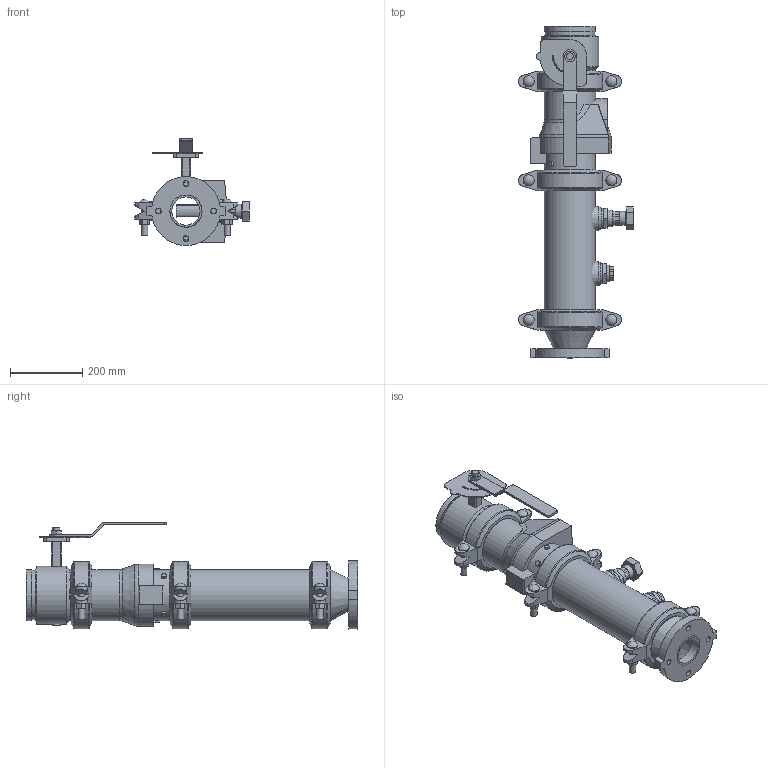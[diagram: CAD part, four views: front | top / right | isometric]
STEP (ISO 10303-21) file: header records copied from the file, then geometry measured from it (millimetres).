
FILE_DESCRIPTION(/* description */ ('VIC DVI PUMP DROP VERT S/380 (OGSxFLG) (S/924-1.25)','CAx-IF Rec.Pracs.---Representation and Presentation of Product Manufacturing Information (PMI)---4.0---2014-10-13'),/* implementation_level */ '2;1');
FILE_NAME(/* name */ 'C:\Users\Public\Documents\Victaulic.Temp\A765\Victaulic_IPS_Vertical DVI_CL 150_Series 380 (OGSxFLG)_924 (1.25)_05.0x03.0 (125x80).stp',/* time_stamp */ '2022-07-25T11:11:29+02:00',/* author */ ('Vjadhav'),/* organization */ ('Victaulic'),/* preprocessor_version */ 'ST-DEVELOPER v18',/* originating_system */ 'Autodesk Inventor 2020',/* authorisation */ '');
FILE_SCHEMA (('AP242_MANAGED_MODEL_BASED_3D_ENGINEERING_MIM_LF { 1 0 10303 442 1 1 4 }'));
Length unit declared in the file: inch
Products named in the file (9): 380_924 (1.25)-05.0x03.0; 741-03.0; 050-05.0x03.0; Pipe-05.0; 177N-05.0; 761-05.0; 779-05.0; 923-04.0x0.75; 924-04.0x01.25
Assembly tree (10 placements, depth 2):
  380_924 (1.25)-05.0x03.0
    741-03.0
    050-05.0x03.0
    177N-05.0  x3
    Pipe-05.0
    761-05.0
    779-05.0
    923-04.0x0.75
    924-04.0x01.25
Bounding box: 317.31 x 917.58 x 295.32 mm (x, y, z)
Volume: 7817545.8 mm3; surface area: 1408641.5 mm2
Topology: 10 solids, 12 shells, 601 faces, 1561 edges, 1045 vertices
Faces by surface type: plane 356, cylinder 199, cone 20, torus 18, sphere 6, bspline 2
Full cylindrical faces by diameter (mm): 4.826 x10, 8.636 x4, 13.716 x4, 15.875 x4, 17.78 x6, 19.05 x2, 21.336 x1, 22.86 x1, 26.67 x2, 30.48 x6, 38.608 x1, 42.164 x1, 45.974 x4, 48.514 x1, 55.118 x1, 55.626 x2, 77.927 x1, 84.938 x1, 88.9 x3, 128.194 x4, 128.6 x3, 137.033 x7, 141.3 x19, 160.02 x1
Entity records: 14316 total; most frequent: CARTESIAN_POINT 2834, DIRECTION 2364, ORIENTED_EDGE 2150, EDGE_CURVE 1075, AXIS2_PLACEMENT_3D 895, VERTEX_POINT 725, LINE 574, VECTOR 574
